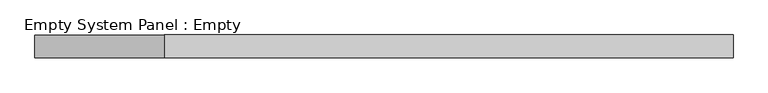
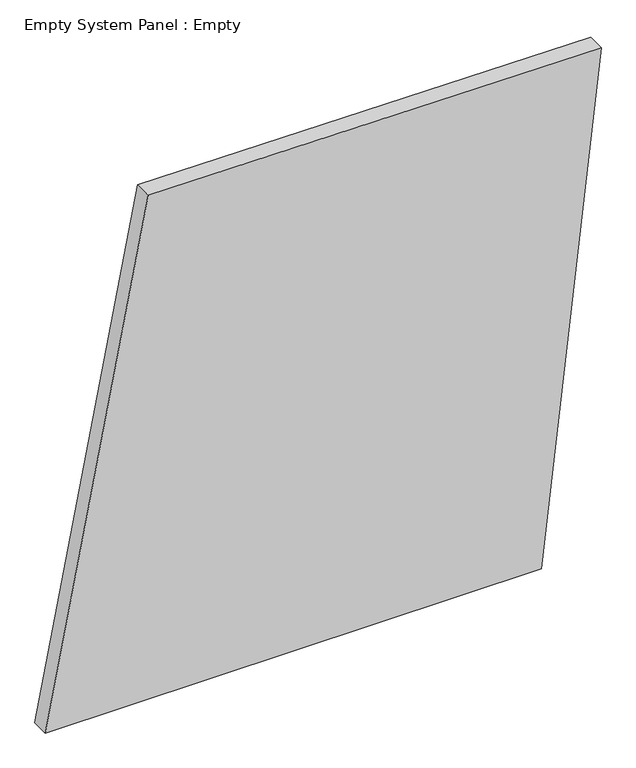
"""IFC4 building model written with IfcOpenShell, lengths in millimetres: plate geometry, Empty System Panel : Empty."""

from ifc_helpers import new_model, si_unit, frame, origin, place, context, project, spatial, polyline, outline, extrude, source, transform, mapped, element, save


def empty_system_panel_empty_c9bce112(model_context):
    return source(origin(), model_context, "Body", "SweptSolid", [
        extrude(outline(polyline([(0.0, -1569.8801559), (0.0, 1232.2343355), (2991.9830873, 1569.8801559), (3005.8938296, -988.602716), (0.0, -1569.8801559)])), frame((0.0, -50.8, 0.0), z_axis=(0.0, 1.0, 0.0), x_axis=(0.0, 0.0, 1.0)), (0.0, 0.0, 1.0), 101.6),
    ])


if __name__ == "__main__":
    model = new_model("IFC4")
    model_context = context("Model", 3, world=origin())
    ifc_project = project(units=[si_unit("LENGTHUNIT", "METRE", prefix="MILLI")], contexts=[model_context])
    site = spatial("IfcSite", under=ifc_project)
    building = spatial("IfcBuilding", under=site)
    placement = place(None, origin())
    empty_system_panel_empty_shape = empty_system_panel_empty_c9bce112(model_context)
    element("IfcPlate", 1, ObjectType="Empty System Panel : Empty", at=placement, inside=building, context=model_context, shape_type="MappedRepresentation", body=[
        mapped(empty_system_panel_empty_shape, transform((0.0, 0.0, 0.0), x_axis=(1.0, 0.0, 0.0), y_axis=(0.0, 1.0, 0.0), z_axis=(0.0, 0.0, 1.0))),
    ])
    save(model, "model.ifc")
